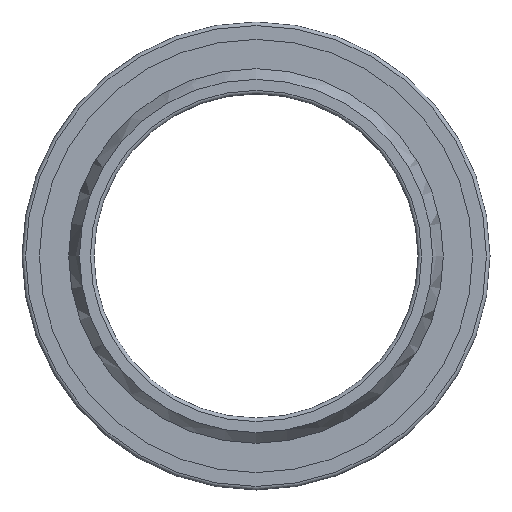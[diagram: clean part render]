
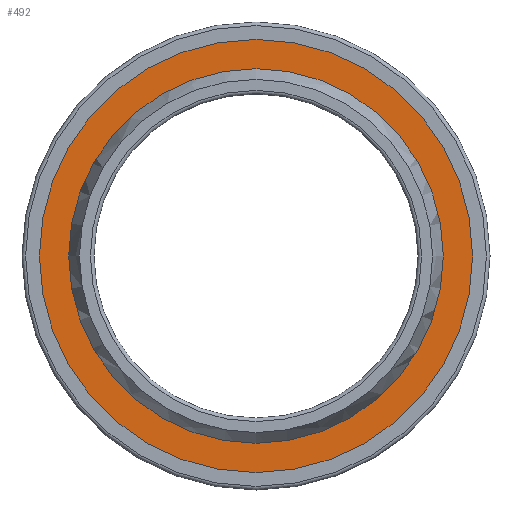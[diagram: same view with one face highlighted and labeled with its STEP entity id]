
A CAD part, left-side view. The second image highlights one B-rep face of the part: STEP entity #492.
In plain terms, the highlighted planar face has unit normal (-1, 0, 0).
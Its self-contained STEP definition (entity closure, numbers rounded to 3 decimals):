
#48=PLANE('',#567);
#105=FACE_BOUND('',#227,.T.);
#153=FACE_OUTER_BOUND('',#226,.T.);
#226=EDGE_LOOP('',(#448));
#227=EDGE_LOOP('',(#449));
#258=CIRCLE('',#561,60.16);
#261=CIRCLE('',#566,52.019);
#302=VERTEX_POINT('',#1116);
#305=VERTEX_POINT('',#1124);
#350=EDGE_CURVE('',#302,#302,#258,.T.);
#353=EDGE_CURVE('',#305,#305,#261,.T.);
#448=ORIENTED_EDGE('',*,*,#350,.F.);
#449=ORIENTED_EDGE('',*,*,#353,.T.);
#492=ADVANCED_FACE('',(#153,#105),#48,.T.);
#561=AXIS2_PLACEMENT_3D('',#1117,#703,#704);
#566=AXIS2_PLACEMENT_3D('',#1125,#713,#714);
#567=AXIS2_PLACEMENT_3D('',#1126,#715,#716);
#703=DIRECTION('center_axis',(1.,0.,0.));
#704=DIRECTION('ref_axis',(0.,0.,-1.));
#713=DIRECTION('center_axis',(1.,0.,0.));
#714=DIRECTION('ref_axis',(0.,0.,-1.));
#715=DIRECTION('center_axis',(-1.,0.,0.));
#716=DIRECTION('ref_axis',(0.,0.,1.));
#1116=CARTESIAN_POINT('',(-24.5,60.16,0.));
#1117=CARTESIAN_POINT('Origin',(-24.5,0.,0.));
#1124=CARTESIAN_POINT('',(-24.5,52.019,0.));
#1125=CARTESIAN_POINT('Origin',(-24.5,0.,0.));
#1126=CARTESIAN_POINT('Origin',(-24.5,60.16,0.));
